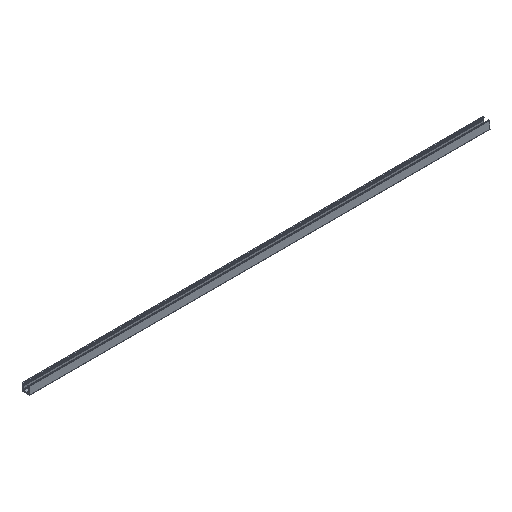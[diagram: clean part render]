
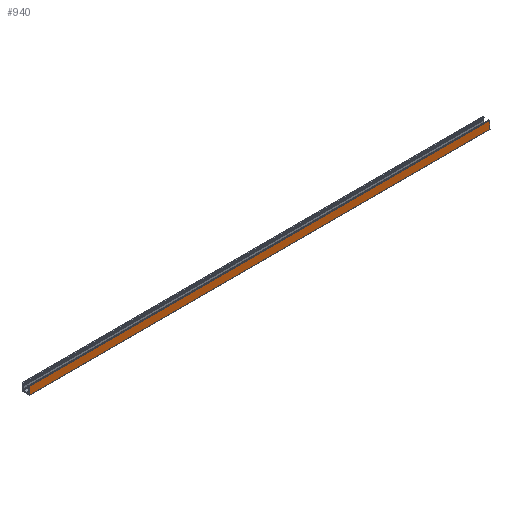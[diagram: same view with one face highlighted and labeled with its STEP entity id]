
A CAD part, isometric view. The second image highlights one B-rep face of the part: STEP entity #940.
In plain terms, the highlighted planar face has unit normal (0, -0.998, 0.065).
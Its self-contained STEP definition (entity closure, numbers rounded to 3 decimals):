
#70=FACE_OUTER_BOUND('',#120,.T.);
#120=EDGE_LOOP('',(#681,#682,#683,#684));
#184=LINE('',#1412,#298);
#185=LINE('',#1415,#299);
#186=LINE('',#1417,#300);
#187=LINE('',#1418,#301);
#298=VECTOR('',#1152,10.);
#299=VECTOR('',#1155,10.);
#300=VECTOR('',#1156,10.);
#301=VECTOR('',#1157,10.);
#413=VERTEX_POINT('',#1408);
#414=VERTEX_POINT('',#1410);
#415=VERTEX_POINT('',#1414);
#416=VERTEX_POINT('',#1416);
#520=EDGE_CURVE('',#413,#414,#184,.T.);
#521=EDGE_CURVE('',#415,#413,#185,.T.);
#522=EDGE_CURVE('',#416,#414,#186,.T.);
#523=EDGE_CURVE('',#415,#416,#187,.T.);
#681=ORIENTED_EDGE('',*,*,#521,.T.);
#682=ORIENTED_EDGE('',*,*,#520,.T.);
#683=ORIENTED_EDGE('',*,*,#522,.F.);
#684=ORIENTED_EDGE('',*,*,#523,.F.);
#896=PLANE('',#1018);
#940=ADVANCED_FACE('',(#70),#896,.T.);
#1018=AXIS2_PLACEMENT_3D('',#1413,#1153,#1154);
#1152=DIRECTION('',(1.,0.,0.));
#1153=DIRECTION('center_axis',(0.,-0.998,
0.065));
#1154=DIRECTION('ref_axis',(0.,-0.065,-0.998));
#1155=DIRECTION('',(0.,-0.065,-0.998));
#1156=DIRECTION('',(0.,-0.065,-0.998));
#1157=DIRECTION('',(1.,0.,0.));
#1408=CARTESIAN_POINT('',(0.,-8.365,0.533));
#1410=CARTESIAN_POINT('',(1000.,-8.365,0.533));
#1412=CARTESIAN_POINT('',(0.,-8.365,0.533));
#1413=CARTESIAN_POINT('Origin',(0.,-7.324,
16.46));
#1414=CARTESIAN_POINT('',(0.,-7.324,16.46));
#1415=CARTESIAN_POINT('',(0.,-7.324,16.46));
#1416=CARTESIAN_POINT('',(1000.,-7.324,16.46));
#1417=CARTESIAN_POINT('',(1000.,-7.324,16.46));
#1418=CARTESIAN_POINT('',(0.,-7.324,16.46));
